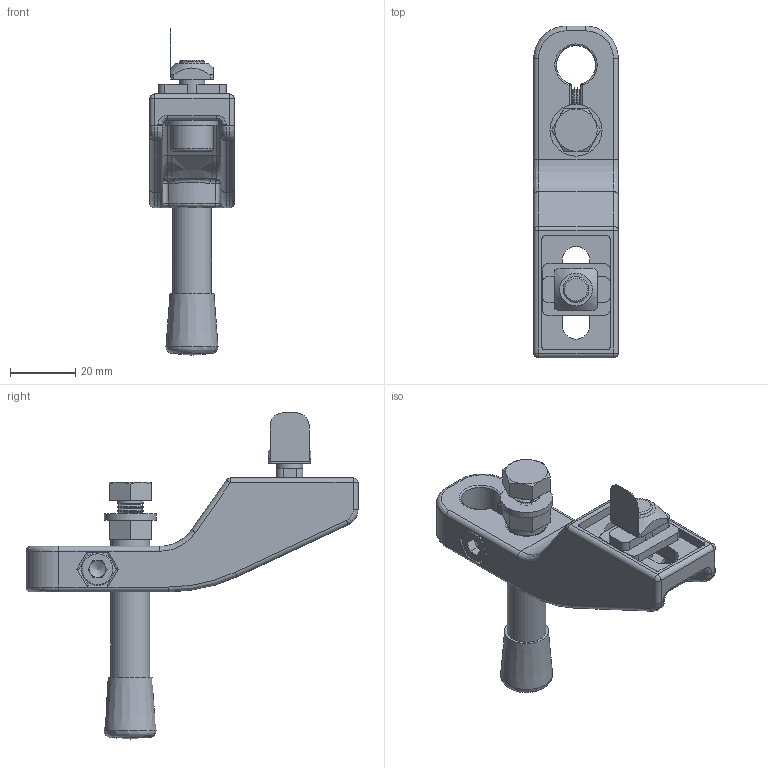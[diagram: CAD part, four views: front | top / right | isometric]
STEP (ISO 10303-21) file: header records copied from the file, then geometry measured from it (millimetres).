
FILE_DESCRIPTION (( 'STEP AP214' ), '1' );
FILE_NAME ('955-015AV.STEP', '2022-06-20T08:57:33', ( '' ), ( '' ), 'SwSTEP 2.0', 'SolidWorks 2021', '' );
FILE_SCHEMA (( 'AUTOMOTIVE_DESIGN' ));
Length unit declared in the file: millimetre
Products named in the file (13): 084.711.006_L1; 955-015-2; ISO 4018 - M8 x 20-NS_ISO 4018 - M8 x 20-NS; 955-015AV; 084.711.005; Hexagon Nut ISO - 4036 - M6 - N_Hexagon Nut ISO - 4036 - M6 - N; ISO 4762 M6 x 20 --- 20S_ISO 4762 M6 x 20 --- 20S; 910-014; 955-015-1; RONDELLE_910-111; 084.711.006_L2; CHC THE_910-052H; 084.711.007
Assembly tree (12 placements, depth 3):
  955-015AV
    955-015-1
      084.711.006_L1
      084.711.006_L2
      ISO 4762 M6 x 20 --- 20S_ISO 4762 M6 x 20 --- 20S
      Hexagon Nut ISO - 4036 - M6 - N_Hexagon Nut ISO - 4036 - M6 - N
    955-015-2
      084.711.007
      084.711.005
      ISO 4018 - M8 x 20-NS_ISO 4018 - M8 x 20-NS
    910-014
    CHC THE_910-052H
    RONDELLE_910-111
Bounding box: 26 x 102 x 100.22 mm (x, y, z)
Volume: 37870.5 mm3; surface area: 24904.6 mm2
Topology: 10 solids, 10 shells, 400 faces, 1006 edges, 617 vertices
Faces by surface type: cylinder 133, plane 125, cone 89, bspline 51, torus 2
Full cylindrical faces by diameter (mm): 5 x1, 6 x20, 6.5 x2, 6.8 x2, 7.98 x1, 8 x17, 8.4 x1, 8.5 x1, 10 x1, 12 x1, 13 x1, 16 x2
Entity records: 11923 total; most frequent: CARTESIAN_POINT 3325, DIRECTION 1719, ORIENTED_EDGE 1502, EDGE_CURVE 751, AXIS2_PLACEMENT_3D 689, EDGE_LOOP 556, VERTEX_POINT 509, FACE_OUTER_BOUND 456
